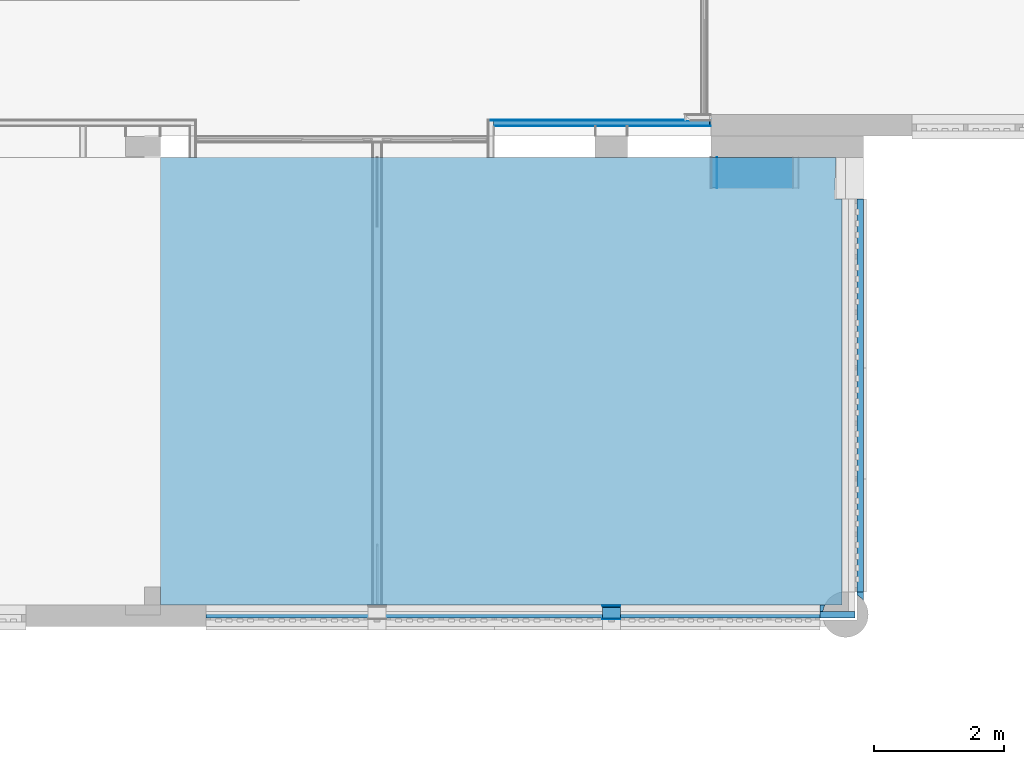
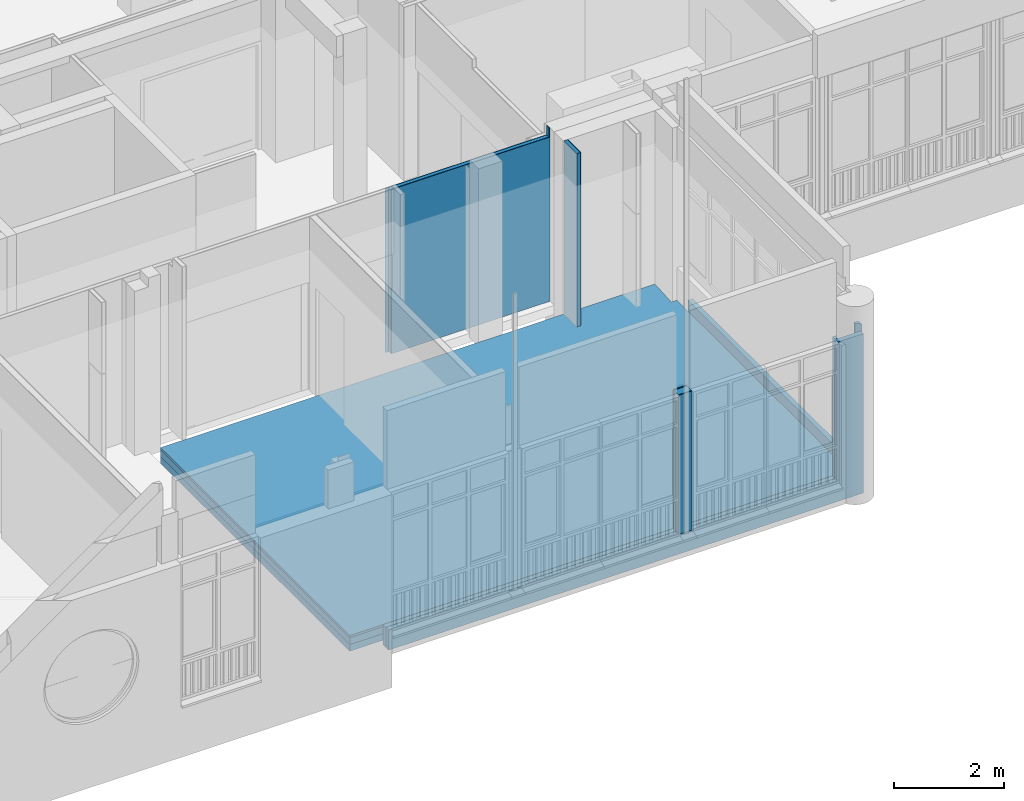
# One storey, part 103 of 135: 16 building element parts, 8 openings, 6 elements without a shape of their own.
"""IFC2X3 building model written with IfcOpenShell, lengths in millimetres."""

from ifc_helpers import new_model, entity, si_unit, converted_unit, derived_unit, money_unit, direction, frame, origin_with_axes, place, context, subcontext, project, spatial, faceted_brep, material, type_object, element, aggregate, save


model = new_model("IFC2X3")

# Units and contexts
model_context = context("Model", 3, precision=0.01, world=origin_with_axes(), true_north=direction((0.0, 1.0)))
body_context = subcontext(model_context, "Body", "Model", "MODEL_VIEW")
ifc_project = project(units=[si_unit("LENGTHUNIT", "METRE", prefix="MILLI"), si_unit("AREAUNIT", "SQUARE_METRE"), si_unit("VOLUMEUNIT", "CUBIC_METRE"), converted_unit("PLANEANGLEUNIT", "DEGREE", entity("IfcPlaneAngleMeasure", 0.0174532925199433), si_unit("PLANEANGLEUNIT", "RADIAN"), dimensions=[0, 0, 0, 0, 0, 0, 0]), money_unit("EUR"), converted_unit("TIMEUNIT", "Year", entity("IfcTimeMeasure", 31557600.0), si_unit("TIMEUNIT", "SECOND"), dimensions=[0, 0, 1, 0, 0, 0, 0]), si_unit("MASSUNIT", "GRAM", prefix="KILO"), si_unit("THERMODYNAMICTEMPERATUREUNIT", "DEGREE_CELSIUS"), si_unit("LUMINOUSINTENSITYUNIT", "LUMEN"), si_unit("ENERGYUNIT", "JOULE", prefix="MEGA"), derived_unit("THERMALCONDUCTANCEUNIT", [(si_unit("POWERUNIT", "WATT"), 1), (si_unit("LENGTHUNIT", "METRE"), -1), (si_unit("THERMODYNAMICTEMPERATUREUNIT", "KELVIN"), -1)]), derived_unit("SPECIFICHEATCAPACITYUNIT", [(si_unit("ENERGYUNIT", "JOULE"), 1), (si_unit("MASSUNIT", "GRAM", prefix="KILO"), -1), (si_unit("THERMODYNAMICTEMPERATUREUNIT", "KELVIN"), -1)]), derived_unit("MASSDENSITYUNIT", [(si_unit("MASSUNIT", "GRAM", prefix="KILO"), 1), (si_unit("VOLUMEUNIT", "CUBIC_METRE"), -1)])], contexts=[model_context])

# Site, building, storey
site_placement = place(None, origin_with_axes())
site = spatial("IfcSite", under=ifc_project, at=site_placement, Name="Site", CompositionType="ELEMENT")
building_placement = place(site_placement, origin_with_axes())
building = spatial("IfcBuilding", under=site, at=building_placement, Name="Naam gebouw", CompositionType="ELEMENT")
storey_placement = place(building_placement, origin_with_axes())
storey = spatial("IfcBuildingStorey", under=building, at=storey_placement, Name="Begane grond N", CompositionType="ELEMENT", Elevation=0.0)

# Wall, building element parts
wall_type_1 = type_object("IfcWallType", Name="Gevel-hsb tpv bg optie 216", PredefinedType="NOTDEFINED")
wall_1_placement = place(storey_placement, frame((28662.53780894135, 3229.668707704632, 0.0), z_axis=(0.0, 0.0, 1.0), x_axis=(1.0, 0.0, 0.0)))
wall_1 = element("IfcWall", 1, at=wall_1_placement, inside=storey, type_object=wall_type_1, Name="_Wand-x")
ifc_material_1 = material(Name="Gipsplaat")
building_element_part_1_placement = place(wall_1_placement, origin_with_axes())
building_element_part_1 = element("IfcBuildingElementPart", 2, at=building_element_part_1_placement, material=ifc_material_1, Name="Gipsplaat", context=body_context, shape_type="Brep", body=[
    faceted_brep([(275.0000000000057, 216.0000000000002, 0.0), (275.0000000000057, 204.0000000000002, 0.0), (0.0, 204.0000000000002, 0.0), (0.0, 216.0000000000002, 0.0), (275.0000000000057, 216.0000000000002, 3090.000000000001), (275.0000000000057, 204.0000000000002, 3090.000000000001), (0.0, 204.0000000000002, 3090.000000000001), (0.0, 216.0000000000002, 3090.000000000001)], [[[0, 1, 2, 3]], [[0, 4, 5, 1]], [[1, 5, 6, 2]], [[3, 2, 6, 7]], [[4, 0, 3, 7]], [[5, 4, 7, 6]]]),
])
ifc_material_2 = material(Name="Hout - Multiplex")
building_element_part_2_placement = place(wall_1_placement, origin_with_axes())
building_element_part_2 = element("IfcBuildingElementPart", 3, at=building_element_part_2_placement, material=ifc_material_2, Name="Hout - Multiplex", context=body_context, shape_type="Brep", body=[
    faceted_brep([(275.0000000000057, 204.0000000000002, 0.0), (275.0000000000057, 185.9999999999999, 0.0), (0.0, 185.9999999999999, 0.0), (0.0, 204.0000000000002, 0.0), (275.0000000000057, 204.0000000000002, 3090.000000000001), (275.0000000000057, 186.0000000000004, 3090.000000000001), (0.0, 186.0000000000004, 3090.000000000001), (0.0, 204.0000000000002, 3090.000000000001)], [[[0, 1, 2, 3]], [[0, 4, 5, 1]], [[1, 5, 6, 2]], [[3, 2, 6, 7]], [[4, 0, 3, 7]], [[5, 4, 7, 6]]]),
])
ifc_material_3 = material(Name="Isolatie - Kunststof hard")
building_element_part_3_placement = place(wall_1_placement, origin_with_axes())
building_element_part_3 = element("IfcBuildingElementPart", 4, at=building_element_part_3_placement, material=ifc_material_3, Name="Isolatie - Kunststof hard", context=body_context, shape_type="Brep", body=[
    faceted_brep([(275.0000000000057, 185.9999999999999, 0.0), (275.0000000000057, 20.99999999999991, 0.0), (0.0, 20.99999999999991, 0.0), (0.0, 185.9999999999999, 0.0), (275.0000000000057, 186.0000000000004, 3090.000000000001), (275.0000000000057, 21.00000000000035, 3090.000000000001), (0.0, 21.00000000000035, 3090.000000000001), (0.0, 186.0000000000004, 3090.000000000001)], [[[0, 1, 2, 3]], [[0, 4, 5, 1]], [[1, 5, 6, 2]], [[3, 2, 6, 7]], [[4, 0, 3, 7]], [[5, 4, 7, 6]]]),
])
building_element_part_4_placement = place(wall_1_placement, origin_with_axes())
building_element_part_4 = element("IfcBuildingElementPart", 5, at=building_element_part_4_placement, material=ifc_material_2, Name="Hout - Multiplex", context=body_context, shape_type="Brep", body=[
    faceted_brep([(275.0000000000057, 20.99999999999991, 0.0), (275.0000000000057, 3.000000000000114, 0.0), (0.0, 3.000000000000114, 0.0), (0.0, 20.99999999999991, 0.0), (275.0000000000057, 21.00000000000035, 3090.000000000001), (275.0000000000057, 3.000000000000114, 3090.000000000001), (0.0, 3.000000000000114, 3090.000000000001), (0.0, 21.00000000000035, 3090.000000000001)], [[[0, 1, 2, 3]], [[0, 4, 5, 1]], [[1, 5, 6, 2]], [[3, 2, 6, 7]], [[4, 0, 3, 7]], [[5, 4, 7, 6]]]),
])
ifc_material_4 = material(Name="Metaal - Aluminium")
building_element_part_5_placement = place(wall_1_placement, origin_with_axes())
building_element_part_5 = element("IfcBuildingElementPart", 6, at=building_element_part_5_placement, material=ifc_material_4, Name="Metaal - Aluminium", context=body_context, shape_type="Brep", body=[
    faceted_brep([(275.0000000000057, 3.000000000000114, 0.0), (275.0000000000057, 0.0, 0.0), (0.0, 0.0, 0.0), (0.0, 3.000000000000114, 0.0), (275.0000000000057, 3.000000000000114, 3090.000000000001), (275.0000000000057, 0.0, 3090.000000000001), (0.0, 0.0, 3090.000000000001), (0.0, 3.000000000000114, 3090.000000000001)], [[[0, 1, 2, 3]], [[0, 4, 5, 1]], [[1, 5, 6, 2]], [[3, 2, 6, 7]], [[4, 0, 3, 7]], [[5, 4, 7, 6]]]),
])
aggregate(wall_1, [building_element_part_1, building_element_part_2, building_element_part_3, building_element_part_4, building_element_part_5])

# Slab, building element parts
slab_type = type_object("IfcSlabType", Name="Vloeropzand+dv iso 350", PredefinedType="NOTDEFINED")
slab_placement = place(storey_placement, frame((21870.0, 10330.912367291, 0.0), z_axis=(0.0, 0.0, 1.0), x_axis=(1.0, 0.0, 0.0)))
slab = element("IfcSlab", 7, at=slab_placement, inside=storey, type_object=slab_type, Name="_Vloer-x", PredefinedType="NOTDEFINED")
ifc_material_5 = material(Name="Cement")
building_element_part_6_placement = place(slab_placement, origin_with_axes())
building_element_part_6 = element("IfcBuildingElementPart", 8, at=building_element_part_6_placement, material=ifc_material_5, Name="Cement", context=body_context, shape_type="Brep", body=[
    faceted_brep([(10384.60474544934, -6712.317537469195, 0.0), (10431.39360510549, -6694.866195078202, 0.0), (10475.47026007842, -6685.277905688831, 0.0), (10475.47026007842, -644.9626774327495, 0.0), (10358.76718061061, -644.9626774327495, 0.0), (10385.4702598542, 0.0, 0.0), (0.0, 0.0, 0.0), (0.0, -6885.243659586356, 0.0), (10211.65600633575, -6885.243659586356, 0.0), (10235.56126350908, -6841.464449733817, 0.0), (10265.48764897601, -6801.487478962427, 0.0), (10300.79874311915, -6766.176384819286, 0.0), (10340.77571389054, -6736.249999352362, 0.0), (10384.60474544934, -6712.317537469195, -50.00000000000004), (10431.39360510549, -6694.866195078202, -50.00000000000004), (10475.47026007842, -6685.277905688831, -50.00000000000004), (10475.47026007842, -644.9626774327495, -50.00000000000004), (10358.76718061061, -644.9626774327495, -50.00000000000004), (10385.4702598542, 0.0, -50.00000000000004), (0.0, 0.0, -50.00000000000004), (0.0, -6885.243659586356, -50.00000000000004), (10211.65600633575, -6885.243659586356, -50.00000000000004), (10235.56126350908, -6841.464449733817, -50.00000000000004), (10265.48764897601, -6801.487478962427, -50.00000000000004), (10300.79874311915, -6766.176384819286, -50.00000000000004), (10340.77571389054, -6736.249999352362, -50.00000000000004)], [[[0, 1, 2, 3, 4, 5, 6, 7, 8, 9, 10, 11, 12]], [[1, 0, 13, 14]], [[15, 2, 1, 14]], [[2, 15, 16, 3]], [[16, 17, 4, 3]], [[17, 18, 5, 4]], [[18, 19, 6, 5]], [[19, 20, 7, 6]], [[21, 8, 7, 20]], [[9, 8, 21, 22]], [[10, 9, 22, 23]], [[11, 10, 23, 24]], [[12, 11, 24, 25]], [[0, 12, 25, 13]], [[22, 21, 20, 19, 18, 17, 16, 15, 14, 13, 25, 24, 23]]]),
])
ifc_material_6 = material(Name="Beton gewapend C vloer")
building_element_part_7_placement = place(slab_placement, origin_with_axes())
building_element_part_7 = element("IfcBuildingElementPart", 9, at=building_element_part_7_placement, material=ifc_material_6, Name="Beton gewapend C vloer", context=body_context, shape_type="Brep", body=[
    faceted_brep([(0.0, -6885.243659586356, -200.0), (0.0, -6885.243659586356, -50.0), (0.0, 0.0, -50.0), (0.0, 0.0, -200.0), (698.7269507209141, -6885.243659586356, -200.0), (698.7269507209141, -6885.243659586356, -50.0), (10475.47026007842, -6885.243659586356, -50.0), (10475.47026007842, -644.9626774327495, -50.0), (10358.76718061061, -644.9626774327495, -50.0), (10385.4702598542, 0.0, -50.0), (10385.4702598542, 0.0, -200.0), (10358.76718061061, -644.9626774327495, -200.0), (10475.47026007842, -644.9626774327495, -200.0), (10475.47026007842, -6885.243659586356, -200.0)], [[[0, 1, 2, 3]], [[4, 5, 1, 0]], [[2, 1, 5, 6, 7, 8, 9]], [[3, 2, 9, 10]], [[3, 10, 11, 12, 13, 4, 0]], [[13, 6, 5, 4]], [[12, 7, 6, 13]], [[11, 8, 7, 12]], [[10, 9, 8, 11]]]),
])
building_element_part_8_placement = place(slab_placement, origin_with_axes())
building_element_part_8 = element("IfcBuildingElementPart", 10, at=building_element_part_8_placement, material=ifc_material_3, Name="Isolatie - Kunststof hard", context=body_context, shape_type="Brep", body=[
    faceted_brep([(0.0, 0.0, -350.0), (0.0, -6885.243659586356, -350.0), (0.0, -6885.243659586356, -200.0), (0.0, 0.0, -200.0), (10385.4702598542, 0.0, -350.0), (10358.76718061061, -644.9626774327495, -350.0), (10475.47026007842, -644.9626774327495, -350.0), (10475.47026007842, -6885.243659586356, -350.0), (698.7269507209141, -6885.243659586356, -350.0), (698.7269507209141, -6885.243659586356, -200.0), (10475.47026007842, -6885.243659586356, -200.0), (10475.47026007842, -644.9626774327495, -200.0), (10358.76718061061, -644.9626774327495, -200.0), (10385.4702598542, 0.0, -200.0)], [[[0, 1, 2, 3]], [[0, 4, 5, 6, 7, 8, 1]], [[1, 8, 9, 2]], [[3, 2, 9, 10, 11, 12, 13]], [[4, 0, 3, 13]], [[5, 4, 13, 12]], [[6, 5, 12, 11]], [[7, 6, 11, 10]], [[8, 7, 10, 9]]]),
])
aggregate(slab, [building_element_part_6, building_element_part_7, building_element_part_8])

# Wall, openings, building element part
wall_type_2 = type_object("IfcWallType", Name="Spouwmuur mw-bs 330 330", PredefinedType="NOTDEFINED")
wall_2_placement = place(storey_placement, frame((32345.47026007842, 3445.668707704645, -449.9999999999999), z_axis=(0.0, 0.0, 1.0), x_axis=(0.0, 1.0, 0.0)))
wall_2 = element("IfcWall", 11, at=wall_2_placement, inside=storey, type_object=wall_type_2, Name="_Wand-x")
opening_1_placement = place(wall_2_placement, frame((1070.316696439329, 0.0, 450.0000000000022), z_axis=(0.0, 0.0, 1.0), x_axis=(1.0, 0.0, 0.0)))
element("IfcOpeningElement", 12, at=opening_1_placement, cuts=wall_2, Name="_Merk-012", context=body_context, shape_type="Brep", body=[
    faceted_brep([(-870.0357142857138, -259.999999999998, 0.0), (-870.0357142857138, -330.999999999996, 0.0), (-870.0357142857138, -330.999999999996, 3092.999999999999), (-870.0357142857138, -259.999999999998, 3092.999999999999), (-870.0357142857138, -225.0000000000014, 0.0), (-870.0357142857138, -225.0000000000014, -80.00000000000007), (-870.0357142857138, -330.999999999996, -80.00000000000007), (870.0357142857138, -330.999999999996, 0.0), (870.0357142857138, -330.999999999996, 3092.999999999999), (870.0357142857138, -330.999999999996, -80.00000000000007), (870.0357142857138, -259.999999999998, 3092.999999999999), (-870.0357142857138, 0.9999999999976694, 3092.999999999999), (-870.0357142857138, 0.9999999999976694, 0.0), (870.0357142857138, -225.0000000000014, 0.0), (870.0357142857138, -225.0000000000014, -80.00000000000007), (870.0357142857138, -259.999999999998, 0.0), (870.0357142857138, 0.9999999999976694, 3092.999999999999), (870.0357142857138, 0.9999999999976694, 0.0)], [[[0, 1, 2, 3]], [[1, 0, 4, 5, 6]], [[7, 8, 2, 1, 6, 9]], [[10, 3, 2, 8]], [[4, 0, 3, 11, 12]], [[4, 13, 14, 5]], [[5, 14, 9, 6]], [[7, 15, 10, 8]], [[15, 7, 9, 14, 13]], [[3, 10, 16, 11]], [[16, 17, 12, 11]], [[13, 4, 12, 17]], [[15, 13, 17, 16, 10]]]),
])
opening_2_placement = place(wall_2_placement, frame((2793.638125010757, 0.0, 450.0000000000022), z_axis=(0.0, 0.0, 1.0), x_axis=(1.0, 0.0, 0.0)))
element("IfcOpeningElement", 13, at=opening_2_placement, cuts=wall_2, Name="_Merk-012", context=body_context, shape_type="Brep", body=[
    faceted_brep([(-853.2857142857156, -259.999999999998, 0.0), (-853.2857142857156, -330.999999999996, 0.0), (-853.2857142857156, -330.999999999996, 3092.999999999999), (-853.2857142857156, -259.999999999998, 3092.999999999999), (-853.2857142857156, -225.0000000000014, 0.0), (-853.2857142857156, -225.0000000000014, -80.00000000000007), (-853.2857142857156, -330.999999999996, -80.00000000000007), (853.2857142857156, -330.999999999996, 0.0), (853.2857142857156, -330.999999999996, 3092.999999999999), (853.2857142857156, -330.999999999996, -80.00000000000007), (853.2857142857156, -259.999999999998, 3092.999999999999), (-853.2857142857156, 0.9999999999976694, 3092.999999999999), (-853.2857142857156, 0.9999999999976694, 0.0), (853.2857142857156, -225.0000000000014, 0.0), (853.2857142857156, -225.0000000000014, -80.00000000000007), (853.2857142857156, -259.999999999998, 0.0), (853.2857142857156, 0.9999999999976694, 3092.999999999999), (853.2857142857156, 0.9999999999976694, 0.0)], [[[0, 1, 2, 3]], [[1, 0, 4, 5, 6]], [[7, 8, 2, 1, 6, 9]], [[10, 3, 2, 8]], [[4, 0, 3, 11, 12]], [[4, 13, 14, 5]], [[5, 14, 9, 6]], [[7, 15, 10, 8]], [[15, 7, 9, 14, 13]], [[3, 10, 16, 11]], [[16, 17, 12, 11]], [[13, 4, 12, 17]], [[15, 13, 17, 16, 10]]]),
])
opening_3_placement = place(wall_2_placement, frame((4943.602410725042, 0.0, 450.0000000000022), z_axis=(0.0, 0.0, 1.0), x_axis=(1.0, 0.0, 0.0)))
element("IfcOpeningElement", 14, at=opening_3_placement, cuts=wall_2, Name="_Merk-011", context=body_context, shape_type="Brep", body=[
    faceted_brep([(-1296.678571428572, -259.999999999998, 0.0), (-1296.678571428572, -330.999999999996, 0.0), (-1296.678571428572, -330.999999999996, 3092.999999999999), (-1296.678571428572, -259.999999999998, 3092.999999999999), (-1296.678571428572, -225.0000000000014, 0.0), (-1296.678571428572, -225.0000000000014, -80.00000000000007), (-1296.678571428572, -330.999999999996, -80.00000000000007), (1296.678571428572, -330.999999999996, 0.0), (1296.678571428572, -330.999999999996, 3092.999999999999), (1296.678571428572, -330.999999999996, -80.00000000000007), (1296.678571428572, -259.999999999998, 3092.999999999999), (-1296.678571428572, 0.9999999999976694, 3092.999999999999), (-1296.678571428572, 0.9999999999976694, 0.0), (1296.678571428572, -225.0000000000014, 0.0), (1296.678571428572, -225.0000000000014, -80.00000000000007), (1296.678571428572, -259.999999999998, 0.0), (1296.678571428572, 0.9999999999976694, 3092.999999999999), (1296.678571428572, 0.9999999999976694, 0.0)], [[[0, 1, 2, 3]], [[1, 0, 4, 5, 6]], [[7, 8, 2, 1, 6, 9]], [[10, 3, 2, 8]], [[4, 0, 3, 11, 12]], [[4, 13, 14, 5]], [[5, 14, 9, 6]], [[7, 15, 10, 8]], [[15, 7, 9, 14, 13]], [[3, 10, 16, 11]], [[16, 17, 12, 11]], [[13, 4, 12, 17]], [[15, 13, 17, 16, 10]]]),
])
ifc_material_7 = material(Name="Steen - Baksteen AFW")
building_element_part_9_placement = place(wall_2_placement, origin_with_axes())
building_element_part_9 = element("IfcBuildingElementPart", 15, at=building_element_part_9_placement, material=ifc_material_7, Name="Steen - Baksteen AFW", context=body_context, shape_type="Brep", body=[
    faceted_brep([(3646.923839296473, -229.9999999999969, 370.0000000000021), (1940.352410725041, -229.9999999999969, 370.0000000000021), (200.2809821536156, -229.9999999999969, 370.0000000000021), (200.2809821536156, -329.9999999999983, 370.0000000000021), (1940.352410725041, -329.9999999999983, 370.0000000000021), (3646.923839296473, -329.9999999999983, 370.0000000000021), (6240.280982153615, -329.9999999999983, 370.0000000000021), (6240.280982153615, -229.9999999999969, 370.0000000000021), (6240.280982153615, -229.9999999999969, 0.0), (156.5039266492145, -229.9999999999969, 0.0), (156.503926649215, -229.9999999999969, 3540.000000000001), (200.2809821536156, -229.9999999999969, 3540.000000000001), (200.2809821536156, -229.9999999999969, 450.0000000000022), (200.2809821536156, -259.999999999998, 450.0000000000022), (200.2809821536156, -259.999999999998, 3540.000000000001), (200.2809821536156, -329.9999999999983, 3540.000000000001), (69.11812784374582, -329.9999999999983, 3540.000000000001), (69.11812784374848, -329.9999999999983, 0.0), (6240.280982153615, -329.9999999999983, 0.0), (83.75618062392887, -319.0420909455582, 0.0), (119.0672747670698, -283.7309968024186, 0.0), (148.9936602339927, -243.7540260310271, 0.0), (148.9936602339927, -243.7540260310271, 3540.000000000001), (119.0672747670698, -283.7309968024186, 3540.000000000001), (83.75618062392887, -319.0420909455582, 3540.000000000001)], [[[0, 1, 2, 3, 4, 5, 6, 7]], [[1, 0, 7, 8, 9, 10, 11, 12, 2]], [[3, 2, 12, 13, 14, 15]], [[5, 4, 3, 15, 16, 17, 18, 6]], [[8, 7, 6, 18]], [[9, 8, 18, 17, 19, 20, 21]], [[10, 9, 21, 22]], [[22, 23, 24, 16, 15, 14, 11, 10]], [[11, 14, 13, 12]], [[16, 24, 19, 17]], [[23, 20, 19, 24]], [[22, 21, 20, 23]]]),
])
aggregate(wall_2, [building_element_part_9])

# Wall, building element parts
wall_type_3 = type_object("IfcWallType", Name="Metalstud iso 100 100", PredefinedType="NOTDEFINED")
wall_3_placement = place(storey_placement, frame((27000.0, 10805.91242510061, 0.0), z_axis=(0.0, 0.0, 1.0), x_axis=(1.0, 0.0, 0.0)))
wall_3 = element("IfcWall", 16, at=wall_3_placement, inside=storey, type_object=wall_type_3, Name="_Wand-x")
ifc_material_8 = material(Name="Isolatie - Steenwol LSW")
building_element_part_10_placement = place(wall_3_placement, origin_with_axes())
building_element_part_10 = element("IfcBuildingElementPart", 17, at=building_element_part_10_placement, material=ifc_material_8, Name="Isolatie - Steenwol LSW", context=body_context, shape_type="Brep", body=[
    faceted_brep([(-12.49999999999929, 87.50000000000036, 3650.0), (3306.999999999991, 87.50000000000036, 3650.0), (3306.999999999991, 87.50000000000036, 3850.0), (3329.187099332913, 87.50000000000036, 3850.0), (3329.187099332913, 87.50000000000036, 0.0), (-12.49999999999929, 87.50000000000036, 0.0), (-12.49999999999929, 12.50000000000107, 3650.0), (3306.999999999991, 12.49999999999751, 3650.0), (3306.999999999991, 12.49999999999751, 3850.0), (3329.187099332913, 12.49999999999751, 3850.0), (3329.187099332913, 12.50000000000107, 0.0), (-12.49999999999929, 12.49999999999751, 0.0)], [[[0, 1, 2, 3, 4, 5]], [[1, 0, 6, 7]], [[8, 2, 1, 7]], [[2, 8, 9, 3]], [[3, 9, 10, 4]], [[10, 11, 5, 4]], [[6, 0, 5, 11]], [[7, 6, 11, 10, 9, 8]]]),
])
building_element_part_11_placement = place(wall_3_placement, origin_with_axes())
building_element_part_11 = element("IfcBuildingElementPart", 18, at=building_element_part_11_placement, material=ifc_material_1, Name="Gipsplaat", context=body_context, shape_type="Brep", body=[
    faceted_brep([(0.0, 12.50000000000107, 3650.0), (3306.999999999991, 12.49999999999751, 3650.0), (3306.999999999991, 12.49999999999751, 3850.0), (3329.187099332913, 12.49999999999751, 3850.0), (3329.187099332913, 12.50000000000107, 0.0), (0.0, 12.49999999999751, 0.0), (0.0, 0.0, 3650.0), (3306.999999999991, 0.0, 3650.0), (3306.999999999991, 0.0, 3850.0), (3329.187099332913, 0.0, 3850.0), (3329.187099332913, 0.0, 0.0), (0.0, 0.0, 0.0)], [[[0, 1, 2, 3, 4, 5]], [[1, 0, 6, 7]], [[8, 2, 1, 7]], [[2, 8, 9, 3]], [[3, 9, 10, 4]], [[10, 11, 5, 4]], [[6, 0, 5, 11]], [[7, 6, 11, 10, 9, 8]]]),
])
building_element_part_12_placement = place(wall_3_placement, origin_with_axes())
building_element_part_12 = element("IfcBuildingElementPart", 19, at=building_element_part_12_placement, material=ifc_material_1, Name="Gipsplaat", context=body_context, shape_type="Brep", body=[
    faceted_brep([(-87.49999999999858, 100.0000146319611, 3650.0), (3306.999999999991, 99.99999999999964, 3650.0), (3306.999999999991, 100.0000000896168, 3850.0), (3329.187099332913, 99.99999999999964, 3850.0), (3329.187099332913, 99.99999999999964, 0.0), (-87.49999999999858, 100.0000298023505, 0.0), (-87.49999999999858, 87.50000000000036, 3650.0), (3306.999999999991, 87.50000000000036, 3650.0), (3306.999999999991, 87.50000000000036, 3850.0), (3329.187099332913, 87.50000000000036, 3850.0), (3329.187099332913, 87.50000000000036, 0.0), (-87.49999999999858, 87.50000000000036, 0.0)], [[[0, 1, 2, 3, 4, 5]], [[1, 0, 6, 7]], [[8, 2, 1, 7]], [[2, 8, 9, 3]], [[3, 9, 10, 4]], [[10, 11, 5, 4]], [[6, 0, 5, 11]], [[7, 6, 11, 10, 9, 8]]]),
])
aggregate(wall_3, [building_element_part_10, building_element_part_11, building_element_part_12])

wall_4_placement = place(storey_placement, frame((30429.59867896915, 10330.91242510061, 0.0), z_axis=(0.0, 0.0, 1.0), x_axis=(0.0, -1.0, 0.0)))
wall_4 = element("IfcWall", 20, at=wall_4_placement, inside=storey, type_object=wall_type_3, Name="_Wand-x")
building_element_part_13_placement = place(wall_4_placement, origin_with_axes())
building_element_part_13 = element("IfcBuildingElementPart", 21, at=building_element_part_13_placement, material=ifc_material_8, Name="Isolatie - Steenwol LSW", context=body_context, shape_type="Brep", body=[
    faceted_brep([(474.9999999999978, -87.49999999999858, 3850.0), (474.9999999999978, -12.49999999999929, 3850.0), (0.0, -12.49999999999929, 3850.0), (0.0, -87.49999999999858, 3850.0), (474.9999999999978, -87.49999999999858, 0.0), (474.9999999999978, -12.49999999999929, 0.0), (0.0, -12.49999999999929, 0.0), (0.0, -87.49999999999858, 0.0)], [[[0, 1, 2, 3]], [[0, 4, 5, 1]], [[1, 5, 6, 2]], [[3, 2, 6, 7]], [[4, 0, 3, 7]], [[5, 4, 7, 6]]]),
])
building_element_part_14_placement = place(wall_4_placement, origin_with_axes())
building_element_part_14 = element("IfcBuildingElementPart", 22, at=building_element_part_14_placement, material=ifc_material_1, Name="Gipsplaat", context=body_context, shape_type="Brep", body=[
    faceted_brep([(474.9999999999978, -12.49999999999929, 3850.0), (474.9999999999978, 0.0, 3850.0), (0.0, 0.0, 3850.0), (0.0, -12.49999999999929, 3850.0), (474.9999999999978, -12.49999999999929, 0.0), (474.9999999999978, 0.0, 0.0), (0.0, 0.0, 0.0), (0.0, -12.49999999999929, 0.0)], [[[0, 1, 2, 3]], [[0, 4, 5, 1]], [[1, 5, 6, 2]], [[3, 2, 6, 7]], [[4, 0, 3, 7]], [[5, 4, 7, 6]]]),
])
aggregate(wall_4, [building_element_part_13, building_element_part_14])

# Wall, openings, building element parts
wall_5_placement = place(storey_placement, frame((22568.72689531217, 3445.668707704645, -449.9999999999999), z_axis=(0.0, 0.0, 1.0), x_axis=(1.0, 0.0, 0.0)))
wall_5 = element("IfcWall", 23, at=wall_5_placement, inside=storey, type_object=wall_type_2, Name="_Wand-x")
opening_4_placement = place(wall_5_placement, frame((8671.303973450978, 0.0, 450.0000000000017), z_axis=(0.0, 0.0, 1.0), x_axis=(1.0, 0.0, 0.0)))
element("IfcOpeningElement", 24, at=opening_4_placement, cuts=wall_5, Name="_Merk-013", context=body_context, shape_type="Brep", body=[
    faceted_brep([(767.4999999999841, -259.9999999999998, 0.0), (767.4999999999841, -224.9999999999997, 0.0), (767.4999999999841, 0.9999999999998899, 0.0), (767.4999999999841, 1.000000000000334, 3089.999999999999), (767.4999999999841, -259.9999999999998, 3089.999999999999), (767.4999999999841, -330.9999999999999, 0.0), (767.4999999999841, -330.9999999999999, -80.00000000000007), (767.4999999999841, -224.9999999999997, -80.00000000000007), (-767.4999999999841, -224.9999999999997, 0.0), (-767.4999999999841, 0.9999999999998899, 0.0), (-767.4999999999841, 1.000000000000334, 3089.999999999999), (-767.4999999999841, -259.9999999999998, 3089.999999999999), (767.4999999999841, -330.9999999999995, 3089.999999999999), (-767.4999999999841, -330.9999999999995, 3089.999999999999), (-767.4999999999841, -330.9999999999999, 0.0), (-767.4999999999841, -330.9999999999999, -80.00000000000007), (-767.4999999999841, -224.9999999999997, -80.00000000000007), (-767.4999999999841, -259.9999999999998, 0.0)], [[[0, 1, 2, 3, 4]], [[1, 0, 5, 6, 7]], [[1, 8, 9, 2]], [[3, 2, 9, 10]], [[11, 4, 3, 10]], [[5, 0, 4, 12]], [[5, 12, 13, 14, 15, 6]], [[16, 7, 6, 15]], [[8, 1, 7, 16]], [[8, 17, 11, 10, 9]], [[4, 11, 13, 12]], [[17, 14, 13, 11]], [[17, 8, 16, 15, 14]]]),
])
opening_5_placement = place(wall_5_placement, frame((1246.857907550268, 0.0, 449.9999999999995), z_axis=(0.0, 0.0, 1.0), x_axis=(1.0, 0.0, 0.0)))
element("IfcOpeningElement", 25, at=opening_5_placement, cuts=wall_5, Name="_Merk-015", context=body_context, shape_type="Brep", body=[
    faceted_brep([(1246.86484772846, -259.9999999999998, 0.0), (1246.86484772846, -224.9999999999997, 0.0), (1246.86484772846, 0.9999999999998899, 0.0), (1246.86484772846, 1.000000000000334, 4090.0), (1246.86484772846, -259.9999999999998, 4090.0), (1246.86484772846, -330.9999999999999, 0.0), (1246.86484772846, -330.9999999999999, -80.00000000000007), (1246.86484772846, -224.9999999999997, -80.00000000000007), (-1246.86484772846, -224.9999999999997, 0.0), (-1246.86484772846, 0.9999999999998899, 0.0), (-1246.86484772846, 1.000000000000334, 4090.0), (-1246.86484772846, -259.9999999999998, 4090.0), (1246.86484772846, -330.9999999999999, 4090.0), (-1246.86484772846, -330.9999999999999, 4090.0), (-1246.86484772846, -330.9999999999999, 0.0), (-1246.86484772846, -330.9999999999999, -80.00000000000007), (-1246.86484772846, -224.9999999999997, -80.00000000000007), (-1246.86484772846, -259.9999999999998, 0.0)], [[[0, 1, 2, 3, 4]], [[1, 0, 5, 6, 7]], [[1, 8, 9, 2]], [[3, 2, 9, 10]], [[11, 4, 3, 10]], [[5, 0, 4, 12]], [[5, 12, 13, 14, 15, 6]], [[16, 7, 6, 15]], [[8, 1, 7, 16]], [[8, 17, 11, 10, 9]], [[4, 11, 13, 12]], [[17, 14, 13, 11]], [[17, 8, 16, 15, 14]]]),
])
opening_6_placement = place(wall_5_placement, frame((7136.303973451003, 0.0, 450.0000000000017), z_axis=(0.0, 0.0, 1.0), x_axis=(1.0, 0.0, 0.0)))
element("IfcOpeningElement", 26, at=opening_6_placement, cuts=wall_5, Name="_Merk-013sp", context=body_context, shape_type="Brep", body=[
    faceted_brep([(767.4999999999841, -259.9999999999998, 0.0), (767.4999999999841, -224.9999999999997, 0.0), (767.4999999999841, 0.9999999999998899, 0.0), (767.4999999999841, 1.000000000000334, 3089.999999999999), (767.4999999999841, -259.9999999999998, 3089.999999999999), (767.4999999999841, -330.9999999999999, 0.0), (767.4999999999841, -330.9999999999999, -80.00000000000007), (767.4999999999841, -224.9999999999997, -80.00000000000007), (-767.4999999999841, -224.9999999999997, 0.0), (-767.4999999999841, 0.9999999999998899, 0.0), (-767.4999999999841, 1.000000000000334, 3089.999999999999), (-767.4999999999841, -259.9999999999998, 3089.999999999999), (767.4999999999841, -330.9999999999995, 3089.999999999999), (-767.4999999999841, -330.9999999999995, 3089.999999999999), (-767.4999999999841, -330.9999999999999, 0.0), (-767.4999999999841, -330.9999999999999, -80.00000000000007), (-767.4999999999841, -224.9999999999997, -80.00000000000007), (-767.4999999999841, -259.9999999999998, 0.0)], [[[0, 1, 2, 3, 4]], [[1, 0, 5, 6, 7]], [[1, 8, 9, 2]], [[3, 2, 9, 10]], [[11, 4, 3, 10]], [[5, 0, 4, 12]], [[5, 12, 13, 14, 15, 6]], [[16, 7, 6, 15]], [[8, 1, 7, 16]], [[8, 17, 11, 10, 9]], [[4, 11, 13, 12]], [[17, 14, 13, 11]], [[17, 8, 16, 15, 14]]]),
])
opening_7_placement = place(wall_5_placement, frame((5262.533668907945, 0.0, 450.0000000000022), z_axis=(0.0, 0.0, 1.0), x_axis=(1.0, 0.0, 0.0)))
element("IfcOpeningElement", 27, at=opening_7_placement, cuts=wall_5, Name="_Merk-014", context=body_context, shape_type="Brep", body=[
    faceted_brep([(831.2703045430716, -259.9999999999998, 0.0), (831.2703045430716, -224.9999999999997, 0.0), (-831.2703045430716, -224.9999999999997, 0.0), (-831.2703045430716, 0.9999999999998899, 0.0), (1106.270304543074, 0.9999999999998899, 0.0), (1106.270304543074, -259.9999999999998, 0.0), (831.2703045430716, -330.9999999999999, 0.0), (831.2703045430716, -330.9999999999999, -80.00000000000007), (831.2703045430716, -224.9999999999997, -80.00000000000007), (-831.2703045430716, -224.9999999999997, -80.00000000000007), (-831.2703045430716, -259.9999999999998, 0.0), (-831.2703045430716, -259.9999999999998, 3089.999999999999), (-831.2703045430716, 1.000000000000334, 3089.999999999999), (1106.270304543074, 1.000000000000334, 3089.999999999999), (1106.270304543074, -259.9999999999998, 3089.999999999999), (1106.270304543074, -331.0000000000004, 0.0), (1106.270304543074, -330.9999999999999, 3089.999999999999), (-831.2703045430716, -330.9999999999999, 3089.999999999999), (-831.2703045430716, -330.9999999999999, 0.0), (-831.2703045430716, -330.9999999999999, -80.00000000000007)], [[[0, 1, 2, 3, 4, 5]], [[1, 0, 6, 7, 8]], [[2, 1, 8, 9]], [[2, 10, 11, 12, 3]], [[13, 4, 3, 12]], [[14, 5, 4, 13]], [[6, 0, 5, 15]], [[6, 15, 16, 17, 18, 19, 7]], [[9, 8, 7, 19]], [[10, 2, 9, 19, 18]], [[10, 18, 17, 11]], [[11, 14, 13, 12]], [[5, 14, 16, 15]], [[14, 11, 17, 16]]]),
])
opening_8_placement = place(wall_5_placement, frame((3599.993059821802, 0.0, 450.0000000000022), z_axis=(0.0, 0.0, 1.0), x_axis=(1.0, 0.0, 0.0)))
element("IfcOpeningElement", 28, at=opening_8_placement, cuts=wall_5, Name="_Merk-014", context=body_context, shape_type="Brep", body=[
    faceted_brep([(831.2703045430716, -259.9999999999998, 0.0), (831.2703045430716, -224.9999999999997, 0.0), (831.2703045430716, 0.9999999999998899, 0.0), (831.2703045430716, 1.000000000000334, 3089.999999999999), (831.2703045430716, -259.9999999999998, 3089.999999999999), (831.2703045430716, -330.9999999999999, 0.0), (831.2703045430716, -330.9999999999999, -80.00000000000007), (831.2703045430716, -224.9999999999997, -80.00000000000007), (-831.2703045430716, -224.9999999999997, 0.0), (-831.2703045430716, -259.9999999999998, 0.0), (-1106.270304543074, -259.9999999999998, 0.0), (-1106.270304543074, 0.9999999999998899, 0.0), (-1106.270304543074, 1.000000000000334, 3089.999999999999), (-1106.270304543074, -259.9999999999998, 3089.999999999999), (831.2703045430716, -330.9999999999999, 3089.999999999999), (-1106.270304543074, -330.9999999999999, 3089.999999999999), (-1106.270304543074, -331.0000000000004, 0.0), (-831.2703045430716, -330.9999999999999, 0.0), (-831.2703045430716, -330.9999999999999, -80.00000000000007), (-831.2703045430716, -224.9999999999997, -80.00000000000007)], [[[0, 1, 2, 3, 4]], [[1, 0, 5, 6, 7]], [[8, 9, 10, 11, 2, 1]], [[3, 2, 11, 12]], [[13, 4, 3, 12]], [[5, 0, 4, 14]], [[5, 14, 15, 16, 17, 18, 6]], [[19, 7, 6, 18]], [[8, 1, 7, 19]], [[9, 8, 19, 18, 17]], [[9, 17, 16, 10]], [[10, 13, 12, 11]], [[4, 13, 15, 14]], [[13, 10, 16, 15]]]),
])
ifc_material_9 = material(Name="Steen - Betonblok")
building_element_part_15_placement = place(wall_5_placement, origin_with_axes())
building_element_part_15 = element("IfcBuildingElementPart", 29, at=building_element_part_15_placement, material=ifc_material_9, Name="Steen - Betonblok", context=body_context, shape_type="Brep", body=[
    faceted_brep([(2493.722755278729, 0.0, 450.0000000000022), (4431.263364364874, 0.0, 450.0000000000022), (9438.803973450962, 0.0, 450.0000000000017), (9438.803973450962, 0.0, 3540.0), (9512.929111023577, 0.0, 3540.000000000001), (9512.929111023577, 0.0, 0.0), (0.0, 0.0, 0.0), (-0.006940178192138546, 0.0, 449.9999999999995), (2493.722755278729, -99.99999999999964, 450.0000000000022), (4431.263364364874, -99.9999999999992, 450.0000000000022), (9438.803973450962, -99.9999999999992, 450.0000000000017), (-0.006940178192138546, -100.0000000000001, 449.9999999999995), (9438.803973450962, -99.9999999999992, 3540.0), (9484.523400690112, -99.9999999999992, 3540.000000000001), (9484.835600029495, -95.6348828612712, 3540.000000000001), (9495.450563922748, -46.83868136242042, 3540.000000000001), (9512.90190631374, -0.04982170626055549, 3540.000000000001), (9512.90190631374, -0.04982170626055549, 0.0), (9495.450563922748, -46.83868136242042, 0.0), (9484.835600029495, -95.6348828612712, 0.0), (9484.523400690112, -99.9999999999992, 0.0), (0.0, -100.0000000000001, 0.0)], [[[0, 1, 2, 3, 4, 5, 6, 7]], [[8, 9, 10, 2, 1, 0, 7, 11]], [[12, 3, 2, 10]], [[13, 14, 15, 16, 4, 3, 12]], [[4, 16, 17, 5]], [[18, 19, 20, 21, 6, 5, 17]], [[21, 11, 7, 6]], [[9, 8, 11, 21, 20, 13, 12, 10]], [[13, 20, 19, 14]], [[14, 19, 18, 15]], [[15, 18, 17, 16]]]),
])
ifc_material_10 = material(Name="Isolatie - Steenwol zacht")
building_element_part_16_placement = place(wall_5_placement, origin_with_axes())
building_element_part_16 = element("IfcBuildingElementPart", 30, at=building_element_part_16_placement, material=ifc_material_10, Name="Isolatie - Steenwol zacht", context=body_context, shape_type="Brep", body=[
    faceted_brep([(2493.722755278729, -99.99999999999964, 450.0000000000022), (4431.263364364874, -99.99999999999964, 450.0000000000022), (9438.803973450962, -99.9999999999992, 450.0000000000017), (9438.803973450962, -99.9999999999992, 3540.0), (9976.743364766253, -99.9999999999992, 3540.000000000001), (9976.743364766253, -99.9999999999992, 0.0), (0.0, -100.0000000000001, 0.0), (-0.006940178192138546, -100.0000000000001, 449.9999999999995), (2493.722755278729, -200.0000000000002, 450.0000000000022), (4431.263364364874, -199.9999999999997, 450.0000000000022), (9438.803973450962, -199.9999999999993, 450.0000000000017), (-0.006940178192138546, -200.0000000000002, 449.9999999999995), (9438.803973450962, -199.9999999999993, 3540.0), (9976.743364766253, -199.9999999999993, 3540.000000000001), (9976.743364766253, -199.9999999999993, 0.0), (0.0, -200.0000000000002, 0.0)], [[[0, 1, 2, 3, 4, 5, 6, 7]], [[8, 9, 10, 2, 1, 0, 7, 11]], [[12, 3, 2, 10]], [[3, 12, 13, 4]], [[4, 13, 14, 5]], [[15, 6, 5, 14]], [[15, 11, 7, 6]], [[9, 8, 11, 15, 14, 13, 12, 10]]]),
])
aggregate(wall_5, [building_element_part_15, building_element_part_16])

save(model, "model.ifc")
